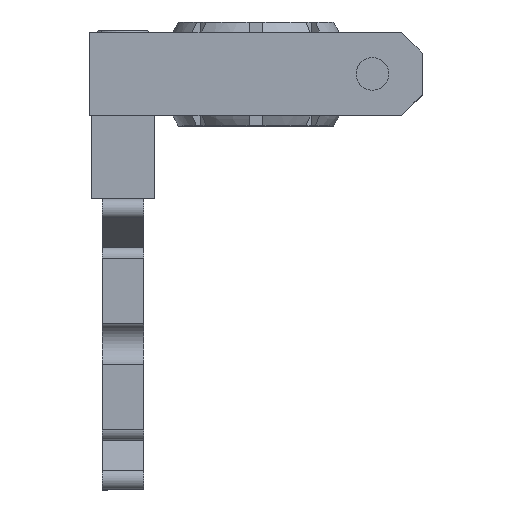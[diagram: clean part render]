
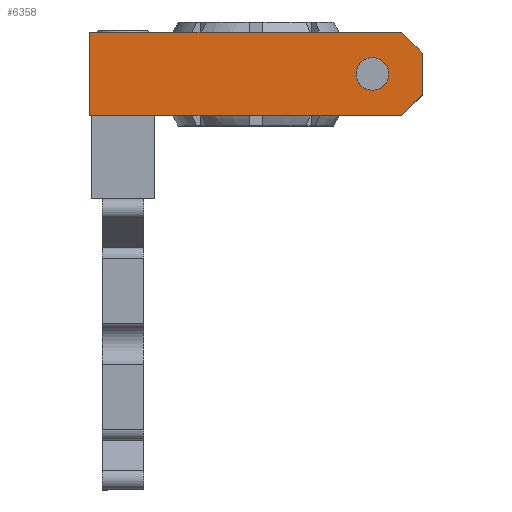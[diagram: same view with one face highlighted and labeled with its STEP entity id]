
A CAD part, top view. The second image highlights one B-rep face of the part: STEP entity #6358.
In plain terms, the highlighted planar face has unit normal (0, 0, 1).
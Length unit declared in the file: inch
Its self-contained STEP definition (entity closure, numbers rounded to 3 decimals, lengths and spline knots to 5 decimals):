
#536 = CARTESIAN_POINT ( 'NONE',  ( 1., 0.125, 0.75 ) ) ;
#538 = CARTESIAN_POINT ( 'NONE',  ( 1., 0.375, 0.75 ) ) ;
#549 = CARTESIAN_POINT ( 'NONE',  ( -1., 0., 0.75 ) ) ;
#552 = CARTESIAN_POINT ( 'NONE',  ( 0.875, 0., 0.75 ) ) ;
#581 = CARTESIAN_POINT ( 'NONE',  ( 0.875, 0.5, 0.75 ) ) ;
#582 = CARTESIAN_POINT ( 'NONE',  ( -1., 0.5, 0.75 ) ) ;
#867 = CARTESIAN_POINT ( 'NONE',  ( 0.60158, 0.25, 0.75 ) ) ;
#868 = CARTESIAN_POINT ( 'NONE',  ( 0.79842, 0.25, 0.75 ) ) ;
#6358 = ADVANCED_FACE ( 'NONE', ( #42456, #42457 ), #22505, .F. ) ;
#17711 = EDGE_CURVE ( 'NONE', #65626, #65625, #54422, .T. ) ;
#21987 = EDGE_LOOP ( 'NONE', ( #27420, #27421 ) ) ;
#21988 = EDGE_LOOP ( 'NONE', ( #27422, #27423, #27424, #27425, #27426, #27427 ) ) ;
#22501 = DIRECTION ( 'NONE',  ( -1., 0., 0. ) ) ;
#22502 = DIRECTION ( 'NONE',  ( 0., 0., -1. ) ) ;
#22503 = CARTESIAN_POINT ( 'NONE',  ( -1., 0.5, 0.75 ) ) ;
#22505 = PLANE ( 'NONE',  #42922 ) ;
#27420 = ORIENTED_EDGE ( 'NONE', *, *, #49183, .T. ) ;
#27421 = ORIENTED_EDGE ( 'NONE', *, *, #17711, .T. ) ;
#27422 = ORIENTED_EDGE ( 'NONE', *, *, #49153, .T. ) ;
#27423 = ORIENTED_EDGE ( 'NONE', *, *, #49184, .T. ) ;
#27424 = ORIENTED_EDGE ( 'NONE', *, *, #49176, .F. ) ;
#27425 = ORIENTED_EDGE ( 'NONE', *, *, #49185, .T. ) ;
#27426 = ORIENTED_EDGE ( 'NONE', *, *, #49030, .F. ) ;
#27427 = ORIENTED_EDGE ( 'NONE', *, *, #49182, .T. ) ;
#30865 = LINE ( 'NONE', #60496, #30866 ) ;
#30866 = VECTOR ( 'NONE', #60497, 39.37008 ) ;
#30901 = LINE ( 'NONE', #60544, #30902 ) ;
#30902 = VECTOR ( 'NONE', #60545, 39.37008 ) ;
#32742 = AXIS2_PLACEMENT_3D ( 'NONE', #60592, #60593, #60594 ) ;
#39309 = DIRECTION ( 'NONE',  ( -1., 0., 0. ) ) ;
#39310 = DIRECTION ( 'NONE',  ( 0., 0., -1. ) ) ;
#39311 = CARTESIAN_POINT ( 'NONE',  ( 0.7, 0.25, 0.75 ) ) ;
#42456 = FACE_BOUND ( 'NONE', #21987, .T. ) ;
#42457 = FACE_OUTER_BOUND ( 'NONE', #21988, .T. ) ;
#42922 = AXIS2_PLACEMENT_3D ( 'NONE', #22503, #22502, #22501 ) ;
#43333 = AXIS2_PLACEMENT_3D ( 'NONE', #39311, #39310, #39309 ) ;
#49030 = EDGE_CURVE ( 'NONE', #65340, #65339, #30865, .T. ) ;
#49153 = EDGE_CURVE ( 'NONE', #65307, #65310, #30901, .T. ) ;
#49176 = EDGE_CURVE ( 'NONE', #65296, #65294, #61956, .T. ) ;
#49182 = EDGE_CURVE ( 'NONE', #65340, #65307, #61975, .T. ) ;
#49183 = EDGE_CURVE ( 'NONE', #65625, #65626, #61983, .T. ) ;
#49184 = EDGE_CURVE ( 'NONE', #65310, #65294, #61981, .T. ) ;
#49185 = EDGE_CURVE ( 'NONE', #65296, #65339, #61987, .T. ) ;
#54422 = CIRCLE ( 'NONE', #43333, 0.09842 ) ;
#60496 = CARTESIAN_POINT ( 'NONE',  ( -1., 0.5, 0.75 ) ) ;
#60497 = DIRECTION ( 'NONE',  ( 1., 0., 0. ) ) ;
#60544 = CARTESIAN_POINT ( 'NONE',  ( -1., 0., 0.75 ) ) ;
#60545 = DIRECTION ( 'NONE',  ( 1., 0., 0. ) ) ;
#60580 = CARTESIAN_POINT ( 'NONE',  ( 1., 0.5, 0.75 ) ) ;
#60581 = DIRECTION ( 'NONE',  ( 0., -1., 0. ) ) ;
#60590 = CARTESIAN_POINT ( 'NONE',  ( -1., 0.5, 0.75 ) ) ;
#60591 = DIRECTION ( 'NONE',  ( 0., -1., 0. ) ) ;
#60592 = CARTESIAN_POINT ( 'NONE',  ( 0.7, 0.25, 0.75 ) ) ;
#60593 = DIRECTION ( 'NONE',  ( 0., 0., -1. ) ) ;
#60594 = DIRECTION ( 'NONE',  ( -1., 0., 0. ) ) ;
#60595 = CARTESIAN_POINT ( 'NONE',  ( 1., 0.125, 0.75 ) ) ;
#60596 = DIRECTION ( 'NONE',  ( 0.707, 0.707, 0. ) ) ;
#60597 = CARTESIAN_POINT ( 'NONE',  ( 0.875, 0.5, 0.75 ) ) ;
#60598 = DIRECTION ( 'NONE',  ( -0.707, 0.707, 0. ) ) ;
#61956 = LINE ( 'NONE', #60580, #61958 ) ;
#61958 = VECTOR ( 'NONE', #60581, 39.37008 ) ;
#61975 = LINE ( 'NONE', #60590, #61977 ) ;
#61977 = VECTOR ( 'NONE', #60591, 39.37008 ) ;
#61981 = LINE ( 'NONE', #60595, #61985 ) ;
#61983 = CIRCLE ( 'NONE', #32742, 0.09842 ) ;
#61985 = VECTOR ( 'NONE', #60596, 39.37008 ) ;
#61987 = LINE ( 'NONE', #60597, #61989 ) ;
#61989 = VECTOR ( 'NONE', #60598, 39.37008 ) ;
#65294 = VERTEX_POINT ( 'NONE', #536 ) ;
#65296 = VERTEX_POINT ( 'NONE', #538 ) ;
#65307 = VERTEX_POINT ( 'NONE', #549 ) ;
#65310 = VERTEX_POINT ( 'NONE', #552 ) ;
#65339 = VERTEX_POINT ( 'NONE', #581 ) ;
#65340 = VERTEX_POINT ( 'NONE', #582 ) ;
#65625 = VERTEX_POINT ( 'NONE', #867 ) ;
#65626 = VERTEX_POINT ( 'NONE', #868 ) ;
